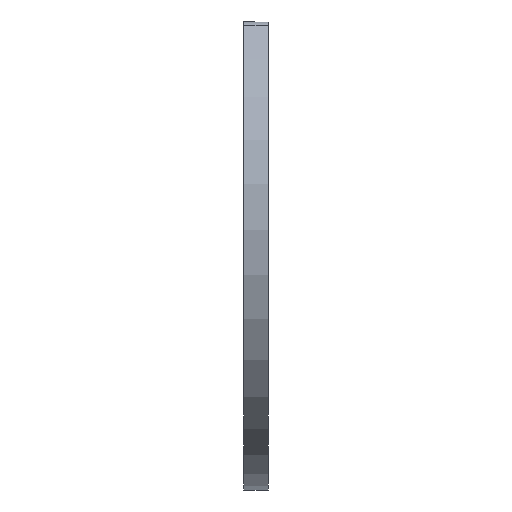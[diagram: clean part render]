
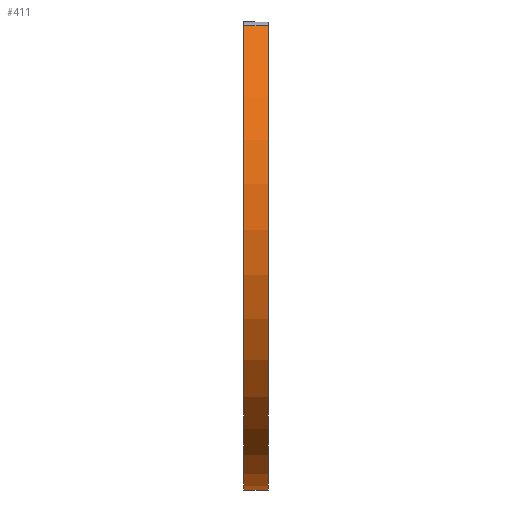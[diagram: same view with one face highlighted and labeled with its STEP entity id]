
A CAD part, left-side view. The second image highlights one B-rep face of the part: STEP entity #411.
In plain terms, the highlighted cylindrical face has radius 18.8 mm (diameter 37.6 mm), a partial arc.
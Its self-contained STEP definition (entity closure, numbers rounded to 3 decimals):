
#10 = CARTESIAN_POINT ( 'NONE',  ( 0., 0.875, 0. ) ) ;
#26 = EDGE_CURVE ( 'NONE', #668, #562, #661, .T. ) ;
#40 = LINE ( 'NONE', #448, #786 ) ;
#53 = DIRECTION ( 'NONE',  ( 0., 0., 1. ) ) ;
#74 = DIRECTION ( 'NONE',  ( 0., -1., 0. ) ) ;
#76 = EDGE_LOOP ( 'NONE', ( #705, #847, #837, #547 ) ) ;
#79 = CARTESIAN_POINT ( 'NONE',  ( -12.612, 0.875, 13.942 ) ) ;
#88 = DIRECTION ( 'NONE',  ( 0., -1., 0. ) ) ;
#154 = DIRECTION ( 'NONE',  ( 0., 1., 0. ) ) ;
#169 = EDGE_CURVE ( 'NONE', #562, #207, #225, .T. ) ;
#207 = VERTEX_POINT ( 'NONE', #79 ) ;
#225 = LINE ( 'NONE', #785, #678 ) ;
#237 = CARTESIAN_POINT ( 'NONE',  ( 0., 0.875, 0. ) ) ;
#255 = CARTESIAN_POINT ( 'NONE',  ( 0., 0.875, -18.8 ) ) ;
#276 = AXIS2_PLACEMENT_3D ( 'NONE', #237, #154, #813 ) ;
#285 = EDGE_CURVE ( 'NONE', #500, #668, #40, .T. ) ;
#344 = CARTESIAN_POINT ( 'NONE',  ( 0., -0.875, 0. ) ) ;
#411 = ADVANCED_FACE ( 'NONE', ( #480 ), #579, .T. ) ;
#422 = EDGE_CURVE ( 'NONE', #500, #207, #704, .T. ) ;
#439 = AXIS2_PLACEMENT_3D ( 'NONE', #344, #919, #53 ) ;
#448 = CARTESIAN_POINT ( 'NONE',  ( 0., 0.875, -18.8 ) ) ;
#480 = FACE_OUTER_BOUND ( 'NONE', #76, .T. ) ;
#500 = VERTEX_POINT ( 'NONE', #255 ) ;
#541 = DIRECTION ( 'NONE',  ( 0., 0., -1. ) ) ;
#547 = ORIENTED_EDGE ( 'NONE', *, *, #169, .T. ) ;
#562 = VERTEX_POINT ( 'NONE', #900 ) ;
#579 = CYLINDRICAL_SURFACE ( 'NONE', #782, 18.8 ) ;
#585 = DIRECTION ( 'NONE',  ( 0., 1., 0. ) ) ;
#661 = CIRCLE ( 'NONE', #439, 18.8 ) ;
#668 = VERTEX_POINT ( 'NONE', #911 ) ;
#678 = VECTOR ( 'NONE', #585, 1000. ) ;
#704 = CIRCLE ( 'NONE', #276, 18.8 ) ;
#705 = ORIENTED_EDGE ( 'NONE', *, *, #422, .F. ) ;
#782 = AXIS2_PLACEMENT_3D ( 'NONE', #10, #88, #541 ) ;
#785 = CARTESIAN_POINT ( 'NONE',  ( -12.612, 0.875, 13.942 ) ) ;
#786 = VECTOR ( 'NONE', #74, 1000. ) ;
#813 = DIRECTION ( 'NONE',  ( 0., 0., 1. ) ) ;
#837 = ORIENTED_EDGE ( 'NONE', *, *, #26, .T. ) ;
#847 = ORIENTED_EDGE ( 'NONE', *, *, #285, .T. ) ;
#900 = CARTESIAN_POINT ( 'NONE',  ( -12.612, -0.875, 13.942 ) ) ;
#911 = CARTESIAN_POINT ( 'NONE',  ( 0., -0.875, -18.8 ) ) ;
#919 = DIRECTION ( 'NONE',  ( 0., 1., 0. ) ) ;
